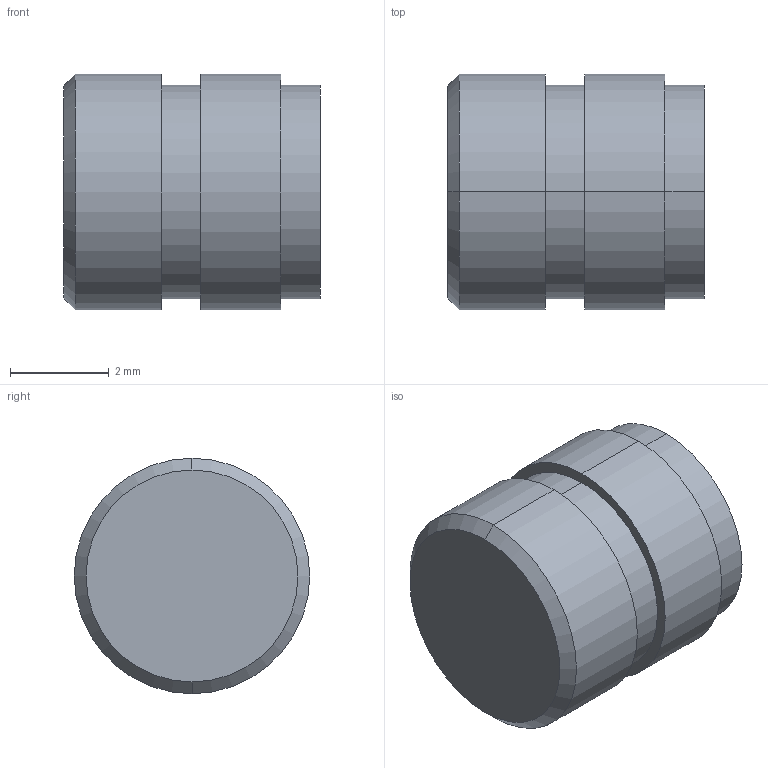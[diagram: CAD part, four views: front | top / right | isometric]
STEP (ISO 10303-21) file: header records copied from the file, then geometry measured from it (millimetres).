
FILE_DESCRIPTION(('starvars output'),'2;1');
FILE_NAME('cv20190722134428000028451.stp','13:44:28 2019/07/22',( 'Thomas Industrial Network Germany GmbH'),( 'Thomas Industrial Network Germany GmbH'),'unknown preprocess','ACIS' ,'unknown authorization');
FILE_SCHEMA(('AUTOMOTIVE_DESIGN_CC2 {UNKNOWN IMPLEMENTATION LEVEL}'));
Length unit declared in the file: millimetre
Products named in the file (1): PRODUCT_ID_1
Bounding box: 5.21 x 4.78 x 4.78 mm (x, y, z)
Volume: 67.7 mm3; surface area: 146.3 mm2
Topology: 1 solids, 1 shells, 24 faces, 48 edges, 29 vertices
Faces by surface type: cylinder 12, plane 6, cone 6
Entity records: 778 total; most frequent: ORIENTED_EDGE 92, CARTESIAN_POINT 76, DIRECTION 76, EDGE_CURVE 46, VERTEX_POINT 29, AXIS2_PLACEMENT_3D 29, EDGE_LOOP 29, FACE_BOUND 29
